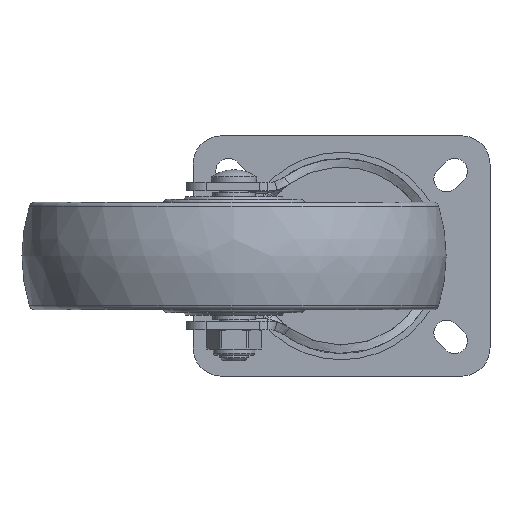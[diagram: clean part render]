
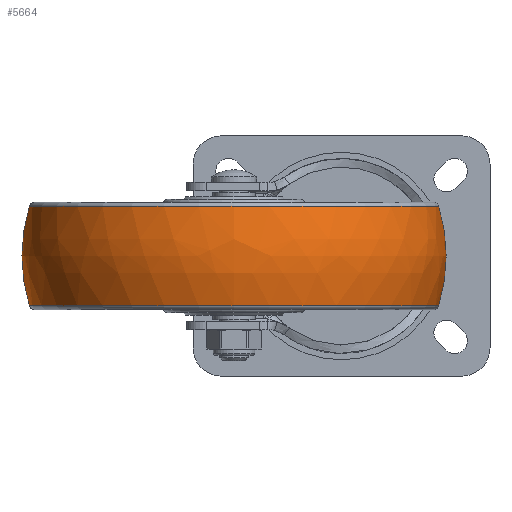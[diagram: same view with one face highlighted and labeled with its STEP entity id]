
A CAD part, front view. The second image highlights one B-rep face of the part: STEP entity #5664.
In plain terms, the highlighted free-form (B-spline) face has degree [3, 3] with [7, 4] control points.
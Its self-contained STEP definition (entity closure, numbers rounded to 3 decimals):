
#4907=CARTESIAN_POINT('',(-106.116,13.994,0.));
#4908=DIRECTION('',(-1.,0.,0.));
#4909=DIRECTION('',(0.,1.,0.));
#4910=AXIS2_PLACEMENT_3D('',#4907,#4908,#4909);
#4912=CARTESIAN_POINT('',(-88.53,28.994,0.));
#4913=DIRECTION('',(0.,0.,1.));
#4914=DIRECTION('',(0.293,0.956,0.));
#4915=AXIS2_PLACEMENT_3D('',#4912,#4913,#4914);
#4917=CARTESIAN_POINT('',(-88.53,-1.006,0.));
#4918=DIRECTION('',(0.,0.,-1.));
#4919=DIRECTION('',(0.293,-0.956,0.));
#4920=AXIS2_PLACEMENT_3D('',#4917,#4918,#4919);
#4922=CARTESIAN_POINT('',(-70.943,13.994,0.));
#4923=DIRECTION('',(-1.,0.,0.));
#4924=DIRECTION('',(0.,1.,0.));
#4925=AXIS2_PLACEMENT_3D('',#4922,#4923,#4924);
#5203=CARTESIAN_POINT('',(-70.943,86.359,0.));
#5205=VERTEX_POINT('',#5203);
#5206=CARTESIAN_POINT('',(-106.116,86.359,0.));
#5207=VERTEX_POINT('',#5206);
#5243=CARTESIAN_POINT('',(-70.943,-58.37,
0.));
#5245=VERTEX_POINT('',#5243);
#5246=CARTESIAN_POINT('',(-106.116,-58.37,
0.));
#5247=VERTEX_POINT('',#5246);
#5626=CARTESIAN_POINT('',(-106.797,-58.015,
4.53));
#5627=CARTESIAN_POINT('',(-94.818,-61.836,
4.771));
#5628=CARTESIAN_POINT('',(-82.241,-61.836,
4.771));
#5629=CARTESIAN_POINT('',(-70.262,-58.015,
4.53));
#5630=CARTESIAN_POINT('',(-106.797,-60.803,
-39.784));
#5631=CARTESIAN_POINT('',(-94.818,-64.772,
-41.895));
#5632=CARTESIAN_POINT('',(-82.241,-64.772,
-41.895));
#5633=CARTESIAN_POINT('',(-70.262,-60.803,
-39.784));
#5634=CARTESIAN_POINT('',(-106.797,-30.408,
-72.152));
#5635=CARTESIAN_POINT('',(-94.818,-32.764,
-75.981));
#5636=CARTESIAN_POINT('',(-82.241,-32.764,
-75.981));
#5637=CARTESIAN_POINT('',(-70.262,-30.408,
-72.152));
#5638=CARTESIAN_POINT('',(-106.797,13.994,
-72.152));
#5639=CARTESIAN_POINT('',(-94.818,13.994,
-75.981));
#5640=CARTESIAN_POINT('',(-82.241,13.994,
-75.981));
#5641=CARTESIAN_POINT('',(-70.262,13.994,
-72.152));
#5642=CARTESIAN_POINT('',(-106.797,58.396,
-72.152));
#5643=CARTESIAN_POINT('',(-94.818,60.753,
-75.981));
#5644=CARTESIAN_POINT('',(-82.241,60.753,
-75.981));
#5645=CARTESIAN_POINT('',(-70.262,58.396,
-72.152));
#5646=CARTESIAN_POINT('',(-106.797,88.792,
-39.784));
#5647=CARTESIAN_POINT('',(-94.818,92.761,
-41.895));
#5648=CARTESIAN_POINT('',(-82.241,92.761,
-41.895));
#5649=CARTESIAN_POINT('',(-70.262,88.792,
-39.784));
#5650=CARTESIAN_POINT('',(-106.797,86.004,4.53));
#5651=CARTESIAN_POINT('',(-94.818,89.825,4.771));
#5652=CARTESIAN_POINT('',(-82.241,89.825,4.771));
#5653=CARTESIAN_POINT('',(-70.262,86.004,4.53));
#5654=(BOUNDED_SURFACE()B_SPLINE_SURFACE(3,3,((#5626,#5627,#5628,#5629),(#5630,
#5631,#5632,#5633),(#5634,#5635,#5636,#5637),(#5638,#5639,#5640,#5641),(#5642,
#5643,#5644,#5645),(#5646,#5647,#5648,#5649),(#5650,#5651,#5652,#5653)),
.UNSPECIFIED.,.F.,.F.,.F.)B_SPLINE_SURFACE_WITH_KNOTS((4,3,4),(4,4),(0.,1.,
2.),(0.,1.),.UNSPECIFIED.)GEOMETRIC_REPRESENTATION_ITEM()RATIONAL_B_SPLINE_SURFACE(((1.216,1.178,1.178,1.216),(
0.96,0.93,0.93,0.96),(
0.96,0.93,0.93,0.96),(
1.216,1.178,1.178,1.216),(
0.96,0.93,0.93,0.96),(
0.96,0.93,0.93,0.96),(
1.216,1.178,1.178,1.216)))REPRESENTATION_ITEM('')SURFACE());
#5656=ORIENTED_EDGE('',*,*,#5655,.T.);
#5657=ORIENTED_EDGE('',*,*,#5621,.T.);
#5659=ORIENTED_EDGE('',*,*,#5658,.F.);
#5661=ORIENTED_EDGE('',*,*,#5660,.F.);
#5662=EDGE_LOOP('',(#5656,#5657,#5659,#5661));
#5663=FACE_OUTER_BOUND('',#5662,.F.);
#4911=CIRCLE('',#4910,72.365);
#4916=CIRCLE('',#4915,60.);
#4921=CIRCLE('',#4920,60.);
#4926=CIRCLE('',#4925,72.365);
#5621=EDGE_CURVE('',#5207,#5247,#4911,.T.);
#5655=EDGE_CURVE('',#5205,#5207,#4916,.T.);
#5658=EDGE_CURVE('',#5245,#5247,#4921,.T.);
#5660=EDGE_CURVE('',#5205,#5245,#4926,.T.);
#5664=ADVANCED_FACE('',(#5663),#5654,.T.);
